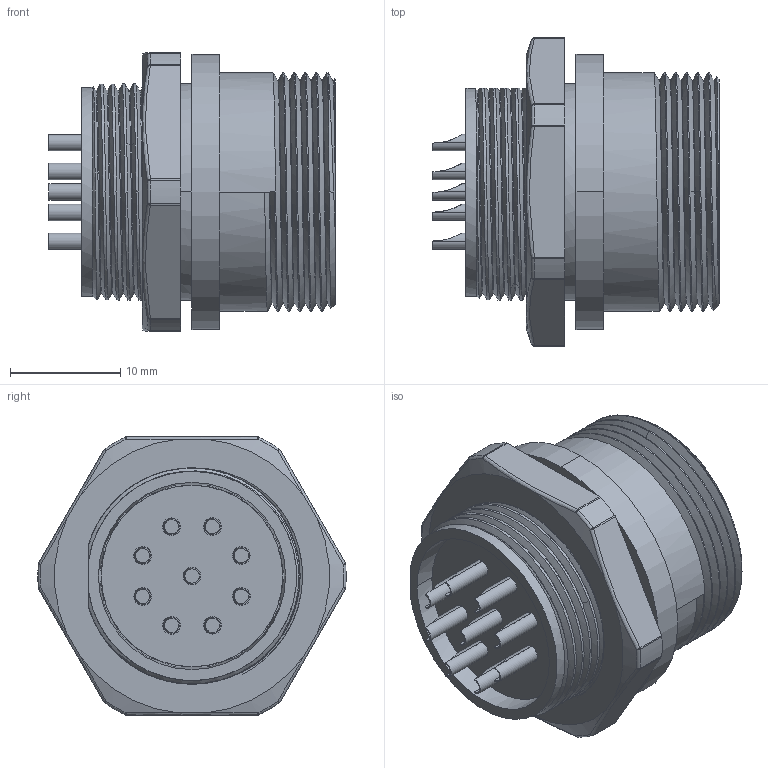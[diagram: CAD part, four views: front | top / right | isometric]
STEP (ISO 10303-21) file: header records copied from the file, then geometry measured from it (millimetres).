
FILE_DESCRIPTION((''),'2;1');
FILE_NAME('PRT0001','2016-04-06T',('Administrator'),(''),'PRO/ENGINEER BY PARAMETRIC TECHNOLOGY CORPORATION, 2015240','PRO/ENGINEER BY PARAMETRIC TECHNOLOGY CORPORATION, 2015240','');
FILE_SCHEMA(('CONFIG_CONTROL_DESIGN'));
Length unit declared in the file: millimetre
Products named in the file (1): PRT0001
Bounding box: 26 x 28 x 25.3 mm (x, y, z)
Volume: 6854.9 mm3; surface area: 8877 mm2
Topology: 1 solids, 1 shells, 350 faces, 840 edges, 543 vertices
Faces by surface type: cylinder 160, plane 94, cone 52, bspline 24, sphere 12, torus 8
Entity records: 17539 total; most frequent: CARTESIAN_POINT 9450, ORIENTED_EDGE 1680, DIRECTION 1670, EDGE_CURVE 840, AXIS2_PLACEMENT_3D 700, VERTEX_POINT 543, EDGE_LOOP 403, CIRCLE 374
